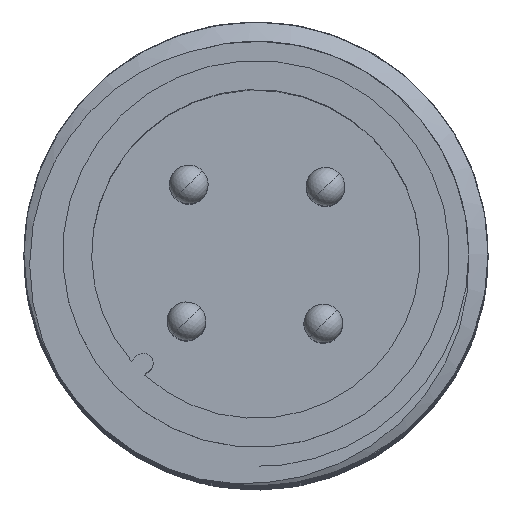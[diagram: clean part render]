
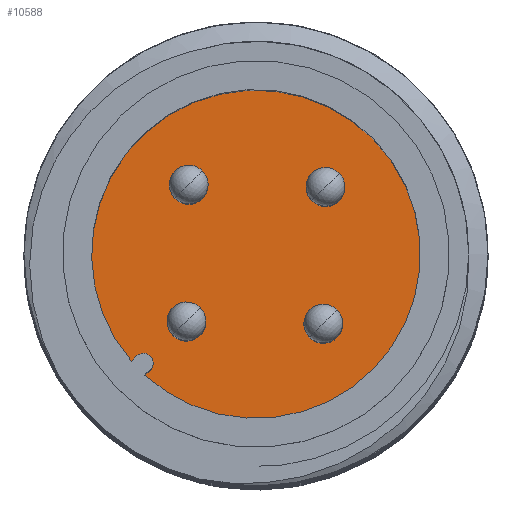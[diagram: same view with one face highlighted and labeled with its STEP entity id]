
A CAD part, top view. The second image highlights one B-rep face of the part: STEP entity #10588.
In plain terms, the highlighted planar face has unit normal (0, 0, 1).
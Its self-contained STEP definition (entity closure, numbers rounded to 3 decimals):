
#77 = CARTESIAN_POINT ( 'NONE',  ( 0., 2.5, 4.5 ) ) ;
#108 = CIRCLE ( 'NONE', #2993, 0.5 ) ;
#461 = CIRCLE ( 'NONE', #7035, 0.5 ) ;
#632 = VERTEX_POINT ( 'NONE', #6432 ) ;
#652 = DIRECTION ( 'NONE',  ( 1., 0., 0. ) ) ;
#715 = EDGE_CURVE ( 'NONE', #2283, #13448, #2788, .T. ) ;
#764 = ORIENTED_EDGE ( 'NONE', *, *, #9711, .F. ) ;
#765 = CIRCLE ( 'NONE', #14153, 0.25 ) ;
#810 = DIRECTION ( 'NONE',  ( 1., 0., 0. ) ) ;
#899 = CARTESIAN_POINT ( 'NONE',  ( 4.05, 0., 4.5 ) ) ;
#1066 = EDGE_LOOP ( 'NONE', ( #4633, #2203 ) ) ;
#1466 = VERTEX_POINT ( 'NONE', #5088 ) ;
#1685 = EDGE_CURVE ( 'NONE', #5123, #15306, #3927, .T. ) ;
#1730 = CARTESIAN_POINT ( 'NONE',  ( 4.243, 0.25, 4.5 ) ) ;
#1748 = DIRECTION ( 'NONE',  ( 0., 0., 1. ) ) ;
#1976 = DIRECTION ( 'NONE',  ( 1., 0., 0. ) ) ;
#2184 = VERTEX_POINT ( 'NONE', #11439 ) ;
#2203 = ORIENTED_EDGE ( 'NONE', *, *, #15081, .F. ) ;
#2283 = VERTEX_POINT ( 'NONE', #8558 ) ;
#2788 = CIRCLE ( 'NONE', #7496, 0.5 ) ;
#2873 = CARTESIAN_POINT ( 'NONE',  ( 0., 0., 4.5 ) ) ;
#2993 = AXIS2_PLACEMENT_3D ( 'NONE', #77, #4925, #10093 ) ;
#3155 = EDGE_LOOP ( 'NONE', ( #764, #5309 ) ) ;
#3365 = DIRECTION ( 'NONE',  ( 1., 0., 0. ) ) ;
#3399 = ORIENTED_EDGE ( 'NONE', *, *, #1685, .F. ) ;
#3416 = CARTESIAN_POINT ( 'NONE',  ( 0., 0., 4.5 ) ) ;
#3418 = CARTESIAN_POINT ( 'NONE',  ( 2., 0., 4.5 ) ) ;
#3491 = DIRECTION ( 'NONE',  ( 0., 0., 1. ) ) ;
#3685 = VERTEX_POINT ( 'NONE', #3904 ) ;
#3782 = AXIS2_PLACEMENT_3D ( 'NONE', #12602, #11387, #4007 ) ;
#3904 = CARTESIAN_POINT ( 'NONE',  ( 4.243, -0.25, 4.5 ) ) ;
#3927 = CIRCLE ( 'NONE', #4452, 0.5 ) ;
#4007 = DIRECTION ( 'NONE',  ( 1., 0., 0. ) ) ;
#4206 = AXIS2_PLACEMENT_3D ( 'NONE', #7743, #7975, #11838 ) ;
#4281 = ORIENTED_EDGE ( 'NONE', *, *, #12559, .F. ) ;
#4301 = CIRCLE ( 'NONE', #3782, 0.5 ) ;
#4387 = CARTESIAN_POINT ( 'NONE',  ( 4.05, -0.25, 4.5 ) ) ;
#4452 = AXIS2_PLACEMENT_3D ( 'NONE', #13345, #12430, #9983 ) ;
#4633 = ORIENTED_EDGE ( 'NONE', *, *, #15518, .F. ) ;
#4768 = CARTESIAN_POINT ( 'NONE',  ( 0., -2.5, 4.5 ) ) ;
#4813 = FACE_BOUND ( 'NONE', #3155, .T. ) ;
#4878 = CARTESIAN_POINT ( 'NONE',  ( 3., 0., 4.5 ) ) ;
#4904 = EDGE_LOOP ( 'NONE', ( #4281, #3399 ) ) ;
#4925 = DIRECTION ( 'NONE',  ( 0., 0., 1. ) ) ;
#5027 = ORIENTED_EDGE ( 'NONE', *, *, #12055, .T. ) ;
#5088 = CARTESIAN_POINT ( 'NONE',  ( -0.5, 2.5, 4.5 ) ) ;
#5123 = VERTEX_POINT ( 'NONE', #4878 ) ;
#5147 = ORIENTED_EDGE ( 'NONE', *, *, #5904, .F. ) ;
#5300 = LINE ( 'NONE', #4387, #8916 ) ;
#5309 = ORIENTED_EDGE ( 'NONE', *, *, #9615, .F. ) ;
#5796 = FACE_BOUND ( 'NONE', #6776, .T. ) ;
#5904 = EDGE_CURVE ( 'NONE', #13448, #2283, #12351, .T. ) ;
#6314 = DIRECTION ( 'NONE',  ( 0., 0., 1. ) ) ;
#6398 = ORIENTED_EDGE ( 'NONE', *, *, #12839, .T. ) ;
#6432 = CARTESIAN_POINT ( 'NONE',  ( 4.05, -0.25, 4.5 ) ) ;
#6765 = AXIS2_PLACEMENT_3D ( 'NONE', #10379, #1748, #11530 ) ;
#6776 = EDGE_LOOP ( 'NONE', ( #5147, #12390 ) ) ;
#7035 = AXIS2_PLACEMENT_3D ( 'NONE', #12523, #6314, #10083 ) ;
#7090 = CIRCLE ( 'NONE', #4206, 0.5 ) ;
#7153 = DIRECTION ( 'NONE',  ( 0., 0., -1. ) ) ;
#7496 = AXIS2_PLACEMENT_3D ( 'NONE', #12295, #13279, #3365 ) ;
#7743 = CARTESIAN_POINT ( 'NONE',  ( 2.5, 0., 4.5 ) ) ;
#7975 = DIRECTION ( 'NONE',  ( 0., 0., 1. ) ) ;
#8196 = EDGE_LOOP ( 'NONE', ( #6398, #5027, #13413, #9030 ) ) ;
#8558 = CARTESIAN_POINT ( 'NONE',  ( 0.5, -2.5, 4.5 ) ) ;
#8752 = VECTOR ( 'NONE', #652, 1000. ) ;
#8916 = VECTOR ( 'NONE', #14401, 1000. ) ;
#9030 = ORIENTED_EDGE ( 'NONE', *, *, #14267, .T. ) ;
#9316 = VERTEX_POINT ( 'NONE', #13623 ) ;
#9615 = EDGE_CURVE ( 'NONE', #2184, #9316, #461, .T. ) ;
#9711 = EDGE_CURVE ( 'NONE', #9316, #2184, #15408, .T. ) ;
#9810 = FACE_BOUND ( 'NONE', #1066, .T. ) ;
#9983 = DIRECTION ( 'NONE',  ( 1., 0., 0. ) ) ;
#10083 = DIRECTION ( 'NONE',  ( 1., 0., 0. ) ) ;
#10093 = DIRECTION ( 'NONE',  ( 1., 0., 0. ) ) ;
#10190 = VERTEX_POINT ( 'NONE', #14675 ) ;
#10379 = CARTESIAN_POINT ( 'NONE',  ( -2.5, 0., 4.5 ) ) ;
#10383 = CARTESIAN_POINT ( 'NONE',  ( 0.5, 2.5, 4.5 ) ) ;
#10588 = ADVANCED_FACE ( 'NONE', ( #4813, #5796, #10718, #9810, #10956 ), #14655, .T. ) ;
#10718 = FACE_BOUND ( 'NONE', #4904, .T. ) ;
#10956 = FACE_OUTER_BOUND ( 'NONE', #8196, .T. ) ;
#11281 = DIRECTION ( 'NONE',  ( 1., 0., 0. ) ) ;
#11323 = EDGE_CURVE ( 'NONE', #632, #12258, #765, .T. ) ;
#11387 = DIRECTION ( 'NONE',  ( 0., 0., 1. ) ) ;
#11439 = CARTESIAN_POINT ( 'NONE',  ( -2., 0., 4.5 ) ) ;
#11530 = DIRECTION ( 'NONE',  ( 1., 0., 0. ) ) ;
#11838 = DIRECTION ( 'NONE',  ( 1., 0., 0. ) ) ;
#11839 = AXIS2_PLACEMENT_3D ( 'NONE', #4768, #14689, #810 ) ;
#12055 = EDGE_CURVE ( 'NONE', #3685, #632, #5300, .T. ) ;
#12139 = VERTEX_POINT ( 'NONE', #10383 ) ;
#12258 = VERTEX_POINT ( 'NONE', #13311 ) ;
#12295 = CARTESIAN_POINT ( 'NONE',  ( 0., -2.5, 4.5 ) ) ;
#12351 = CIRCLE ( 'NONE', #11839, 0.5 ) ;
#12390 = ORIENTED_EDGE ( 'NONE', *, *, #715, .F. ) ;
#12430 = DIRECTION ( 'NONE',  ( 0., 0., 1. ) ) ;
#12523 = CARTESIAN_POINT ( 'NONE',  ( -2.5, 0., 4.5 ) ) ;
#12559 = EDGE_CURVE ( 'NONE', #15306, #5123, #7090, .T. ) ;
#12602 = CARTESIAN_POINT ( 'NONE',  ( 0., 2.5, 4.5 ) ) ;
#12704 = DIRECTION ( 'NONE',  ( 0., 0., 1. ) ) ;
#12839 = EDGE_CURVE ( 'NONE', #10190, #3685, #13620, .T. ) ;
#13279 = DIRECTION ( 'NONE',  ( 0., 0., 1. ) ) ;
#13311 = CARTESIAN_POINT ( 'NONE',  ( 4.05, 0.25, 4.5 ) ) ;
#13345 = CARTESIAN_POINT ( 'NONE',  ( 2.5, 0., 4.5 ) ) ;
#13413 = ORIENTED_EDGE ( 'NONE', *, *, #11323, .T. ) ;
#13448 = VERTEX_POINT ( 'NONE', #14650 ) ;
#13620 = CIRCLE ( 'NONE', #15726, 4.25 ) ;
#13623 = CARTESIAN_POINT ( 'NONE',  ( -3., 0., 4.5 ) ) ;
#14153 = AXIS2_PLACEMENT_3D ( 'NONE', #899, #7153, #1976 ) ;
#14267 = EDGE_CURVE ( 'NONE', #12258, #10190, #15594, .T. ) ;
#14401 = DIRECTION ( 'NONE',  ( -1., 0., 0. ) ) ;
#14650 = CARTESIAN_POINT ( 'NONE',  ( -0.5, -2.5, 4.5 ) ) ;
#14655 = PLANE ( 'NONE',  #15644 ) ;
#14675 = CARTESIAN_POINT ( 'NONE',  ( 4.243, 0.25, 4.5 ) ) ;
#14689 = DIRECTION ( 'NONE',  ( 0., 0., 1. ) ) ;
#15081 = EDGE_CURVE ( 'NONE', #12139, #1466, #4301, .T. ) ;
#15306 = VERTEX_POINT ( 'NONE', #3418 ) ;
#15335 = DIRECTION ( 'NONE',  ( 1., 0., 0. ) ) ;
#15408 = CIRCLE ( 'NONE', #6765, 0.5 ) ;
#15518 = EDGE_CURVE ( 'NONE', #1466, #12139, #108, .T. ) ;
#15594 = LINE ( 'NONE', #1730, #8752 ) ;
#15644 = AXIS2_PLACEMENT_3D ( 'NONE', #3416, #3491, #11281 ) ;
#15726 = AXIS2_PLACEMENT_3D ( 'NONE', #2873, #12704, #15335 ) ;
